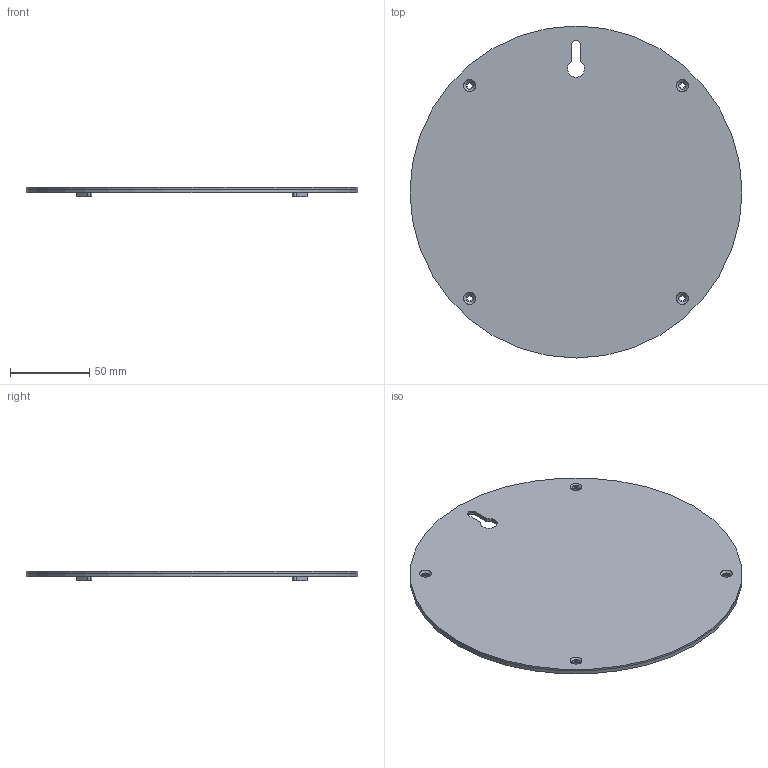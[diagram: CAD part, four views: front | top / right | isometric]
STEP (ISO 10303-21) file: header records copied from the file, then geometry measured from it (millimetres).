
FILE_DESCRIPTION(('FreeCAD Model'),'2;1');
FILE_NAME('Open CASCADE Shape Model','2024-03-23T00:15:00',(''),(''), 'Open CASCADE STEP processor 7.6','FreeCAD','Unknown');
FILE_SCHEMA(('AUTOMOTIVE_DESIGN { 1 0 10303 214 1 1 1 1 }'));
Length unit declared in the file: millimetre
Products named in the file (1): Faceplate
Bounding box: 209.6 x 209.6 x 6 mm (x, y, z)
Volume: 59999.5 mm3; surface area: 76056.5 mm2
Topology: 1 solids, 1 shells, 127 faces, 306 edges, 195 vertices
Faces by surface type: cylinder 71, plane 40, bspline 12, cone 4
Full cylindrical faces by diameter (mm): 3.5 x9, 208.4 x1, 209.6 x2
Entity records: 4832 total; most frequent: CARTESIAN_POINT 1867, ORIENTED_EDGE 612, DIRECTION 609, EDGE_CURVE 306, AXIS2_PLACEMENT_3D 246, VERTEX_POINT 195, FACE_BOUND 151, EDGE_LOOP 151
